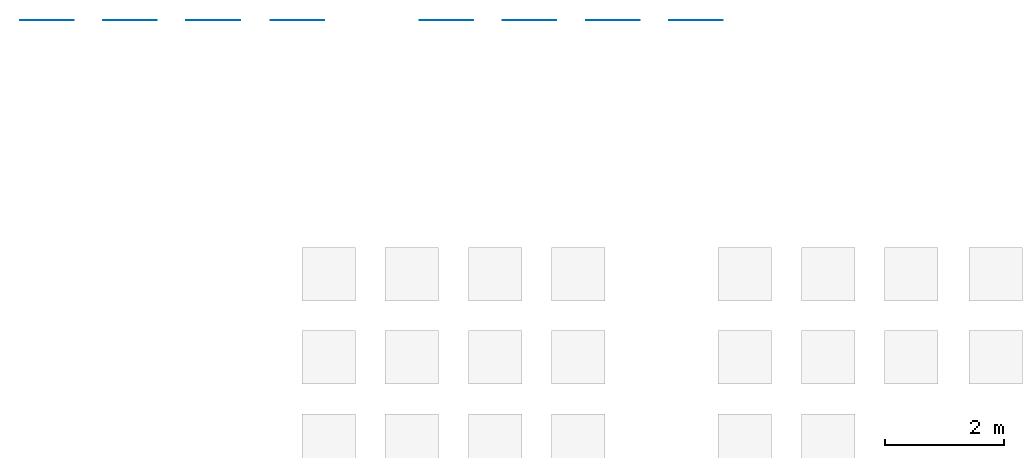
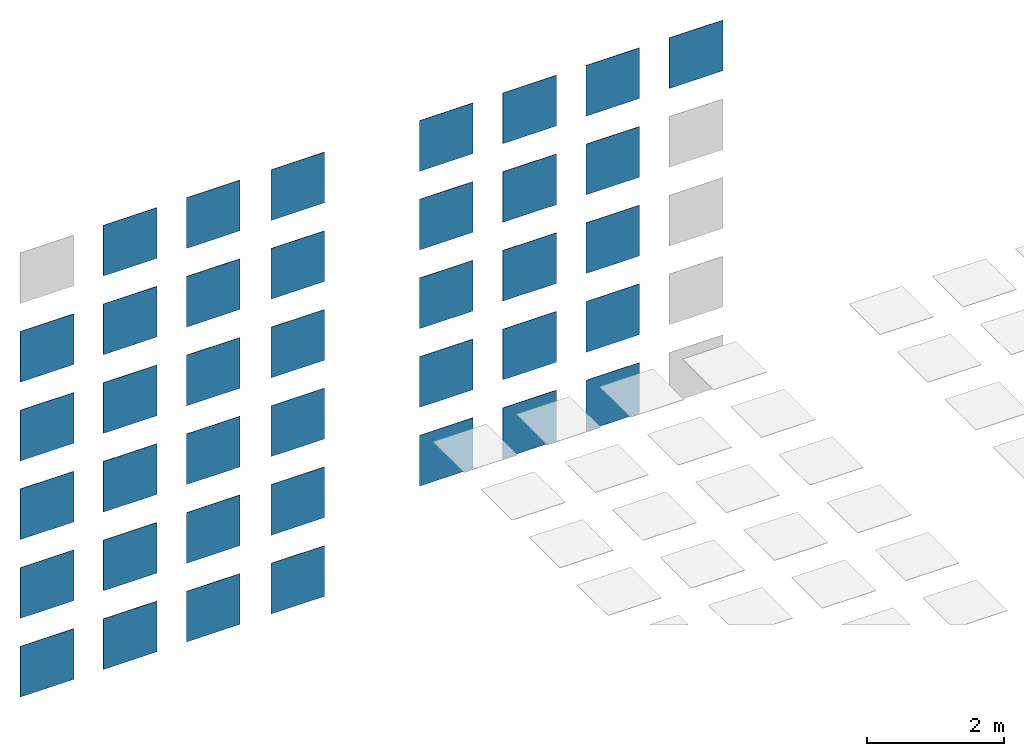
# One storey, part 2 of 3: 39 walls.
"""IFC2X3 building model written with IfcOpenShell, lengths in metres."""

from ifc_helpers import new_model, entity, si_unit, converted_unit, derived_unit, direction, frame, frame_2d, origin, place, context, subcontext, project, spatial, rectangle, extrude, material, layer, layer_set, layer_usage, type_object, element, save


model = new_model("IFC2X3")

# Units and contexts
model_context = context("Model", 3, precision=1e-05, world=origin(), true_north=direction((6.12303176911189e-17, 1.0)))
body_context = subcontext(model_context, "Body", "Model", "MODEL_VIEW")
ifc_project = project(units=[si_unit("LENGTHUNIT", "METRE"), si_unit("AREAUNIT", "SQUARE_METRE"), si_unit("VOLUMEUNIT", "CUBIC_METRE"), converted_unit("PLANEANGLEUNIT", "DEGREE", entity("IfcRatioMeasure", 0.0174532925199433), si_unit("PLANEANGLEUNIT", "RADIAN"), dimensions=[0, 0, 0, 0, 0, 0, 0]), si_unit("MASSUNIT", "GRAM", prefix="KILO"), si_unit("TIMEUNIT", "SECOND"), si_unit("FREQUENCYUNIT", "HERTZ"), si_unit("THERMODYNAMICTEMPERATUREUNIT", "DEGREE_CELSIUS"), derived_unit("THERMALTRANSMITTANCEUNIT", [(si_unit("MASSUNIT", "GRAM", prefix="KILO"), 1), (si_unit("THERMODYNAMICTEMPERATUREUNIT", "KELVIN"), -1), (si_unit("TIMEUNIT", "SECOND"), -3)]), derived_unit("VOLUMETRICFLOWRATEUNIT", [(si_unit("LENGTHUNIT", "METRE"), 3), (si_unit("TIMEUNIT", "SECOND"), -1)]), si_unit("ELECTRICCURRENTUNIT", "AMPERE"), si_unit("ELECTRICVOLTAGEUNIT", "VOLT"), si_unit("POWERUNIT", "WATT"), si_unit("FORCEUNIT", "NEWTON", prefix="KILO"), si_unit("ILLUMINANCEUNIT", "LUX"), si_unit("LUMINOUSFLUXUNIT", "LUMEN"), si_unit("LUMINOUSINTENSITYUNIT", "CANDELA"), derived_unit("USERDEFINED", [(si_unit("MASSUNIT", "GRAM", prefix="KILO"), -1), (si_unit("LENGTHUNIT", "METRE"), -2), (si_unit("TIMEUNIT", "SECOND"), 3), (si_unit("LUMINOUSFLUXUNIT", "LUMEN"), 1)]), derived_unit("LINEARVELOCITYUNIT", [(si_unit("LENGTHUNIT", "METRE"), 1), (si_unit("TIMEUNIT", "SECOND"), -1)]), si_unit("PRESSUREUNIT", "PASCAL"), derived_unit("USERDEFINED", [(si_unit("LENGTHUNIT", "METRE"), -2), (si_unit("MASSUNIT", "GRAM", prefix="KILO"), 1), (si_unit("TIMEUNIT", "SECOND"), -2)])], contexts=[model_context])

# Site, building, storey
site_placement = place(None, origin())
site = spatial("IfcSite", under=ifc_project, at=site_placement, Name="Default", CompositionType="ELEMENT")
building_placement = place(site_placement, origin())
building = spatial("IfcBuilding", under=site, at=building_placement, CompositionType="ELEMENT")
storey_placement = place(building_placement, origin())
storey = spatial("IfcBuildingStorey", under=building, at=storey_placement, Name="FARNESE FLOOR TILES", CompositionType="ELEMENT", Elevation=0.0)

# Walls
ifc_material_1 = material(Name="VIVES FARNESE CEMENTO 30x30")
ifc_layer_1 = layer(ifc_material_1, 0.0082)
ifc_layer_set_1 = layer_set([ifc_layer_1], Name="Muro básico:VIVES FARNESE CEMENTO 30x30")
ifc_layer_usage_1 = layer_usage(ifc_layer_set_1, "AXIS2", "NEGATIVE", 0.0041)
wall_type_1 = type_object("IfcWallType", Name="Muro básico:VIVES FARNESE CEMENTO 30x30", PredefinedType="STANDARD", material=ifc_layer_set_1)
wall_1_placement = place(storey_placement, frame((-6.18806570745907, 0.618072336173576, 1.80336417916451)))
element("IfcWallStandardCase", 1, at=wall_1_placement, inside=storey, type_object=wall_type_1, material=ifc_layer_usage_1, Name="Muro básico:VIVES FARNESE CEMENTO 30x30", ObjectType="Muro básico:VIVES FARNESE CEMENTO 30x30", context=body_context, shape_type="SweptSolid", body=[
    extrude(rectangle(XDim=0.899999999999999, YDim=0.00820000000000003, at=frame_2d((0.45, 5.46437894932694e-17), x_axis=(-1.0, 0.0))), origin(), (0.0, 0.0, 1.0), 0.9),
])
ifc_material_2 = material(Name="VIVES FARNESE CREMA 30x30")
ifc_layer_2 = layer(ifc_material_2, 0.0082)
ifc_layer_set_2 = layer_set([ifc_layer_2], Name="Muro básico:VIVES FARNESE CREMA 30x30")
ifc_layer_usage_2 = layer_usage(ifc_layer_set_2, "AXIS2", "NEGATIVE", 0.0041)
wall_type_2 = type_object("IfcWallType", Name="Muro básico:VIVES FARNESE CREMA 30x30", PredefinedType="STANDARD", material=ifc_layer_set_2)
wall_2_placement = place(storey_placement, frame((-4.78806570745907, 0.618072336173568, 1.80336417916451)))
element("IfcWallStandardCase", 2, at=wall_2_placement, inside=storey, type_object=wall_type_2, material=ifc_layer_usage_2, Name="Muro básico:VIVES FARNESE CREMA 30x30", ObjectType="Muro básico:VIVES FARNESE CREMA 30x30", context=body_context, shape_type="SweptSolid", body=[
    extrude(rectangle(XDim=0.9, YDim=0.00820000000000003, at=frame_2d((0.45, 5.46437894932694e-17), x_axis=(-1.0, 0.0))), origin(), (0.0, 0.0, 1.0), 0.9),
])
ifc_material_3 = material(Name="VIVES FARNESE GRAFITO 30x30")
ifc_layer_3 = layer(ifc_material_3, 0.0082)
ifc_layer_set_3 = layer_set([ifc_layer_3], Name="Muro básico:VIVES FARNESE GRAFITO 30x30")
ifc_layer_usage_3 = layer_usage(ifc_layer_set_3, "AXIS2", "NEGATIVE", 0.0041)
wall_type_3 = type_object("IfcWallType", Name="Muro básico:VIVES FARNESE GRAFITO 30x30", PredefinedType="STANDARD", material=ifc_layer_set_3)
wall_3_placement = place(storey_placement, frame((-3.36806570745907, 0.618072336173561, 1.80336417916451)))
element("IfcWallStandardCase", 3, at=wall_3_placement, inside=storey, type_object=wall_type_3, material=ifc_layer_usage_3, Name="Muro básico:VIVES FARNESE GRAFITO 30x30", ObjectType="Muro básico:VIVES FARNESE GRAFITO 30x30", context=body_context, shape_type="SweptSolid", body=[
    extrude(rectangle(XDim=0.9, YDim=0.00820000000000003, at=frame_2d((0.45, 5.46437894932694e-17), x_axis=(-1.0, 0.0))), origin(), (0.0, 0.0, 1.0), 0.9),
])
ifc_material_4 = material(Name="VIVES AMALFI HUMO 30x30")
ifc_layer_4 = layer(ifc_material_4, 0.0082)
ifc_layer_set_4 = layer_set([ifc_layer_4], Name="Muro básico:VIVES AMALFI HUMO 30x30")
ifc_layer_usage_4 = layer_usage(ifc_layer_set_4, "AXIS2", "NEGATIVE", 0.0041)
wall_type_4 = type_object("IfcWallType", Name="Muro básico:VIVES AMALFI HUMO 30x30", PredefinedType="STANDARD", material=ifc_layer_set_4)
wall_4_placement = place(storey_placement, frame((-7.58806570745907, 0.618072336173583, 0.403364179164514)))
element("IfcWallStandardCase", 4, at=wall_4_placement, inside=storey, type_object=wall_type_4, material=ifc_layer_usage_4, Name="Muro básico:VIVES AMALFI HUMO 30x30", ObjectType="Muro básico:VIVES AMALFI HUMO 30x30", context=body_context, shape_type="SweptSolid", body=[
    extrude(rectangle(XDim=0.899999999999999, YDim=0.00820000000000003, at=frame_2d((0.45, 5.46437894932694e-17), x_axis=(-1.0, 0.0))), origin(), (0.0, 0.0, 1.0), 0.9),
])
ifc_material_5 = material(Name="VIVES AMALFI CEMENTO 30x30")
ifc_layer_5 = layer(ifc_material_5, 0.0082)
ifc_layer_set_5 = layer_set([ifc_layer_5], Name="Muro básico:VIVES AMALFI CEMENTO 30x30")
ifc_layer_usage_5 = layer_usage(ifc_layer_set_5, "AXIS2", "NEGATIVE", 0.0041)
wall_type_5 = type_object("IfcWallType", Name="Muro básico:VIVES AMALFI CEMENTO 30x30", PredefinedType="STANDARD", material=ifc_layer_set_5)
wall_5_placement = place(storey_placement, frame((-6.18806570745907, 0.618072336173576, 0.403364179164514)))
element("IfcWallStandardCase", 5, at=wall_5_placement, inside=storey, type_object=wall_type_5, material=ifc_layer_usage_5, Name="Muro básico:VIVES AMALFI CEMENTO 30x30", ObjectType="Muro básico:VIVES AMALFI CEMENTO 30x30", context=body_context, shape_type="SweptSolid", body=[
    extrude(rectangle(XDim=0.899999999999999, YDim=0.00820000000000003, at=frame_2d((0.45, 5.46437894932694e-17), x_axis=(-1.0, 0.0))), origin(), (0.0, 0.0, 1.0), 0.9),
])
ifc_material_6 = material(Name="VIVES AMALFI CREMA 30x30")
ifc_layer_6 = layer(ifc_material_6, 0.0082)
ifc_layer_set_6 = layer_set([ifc_layer_6], Name="Muro básico:VIVES AMALFI CREMA 30x30")
ifc_layer_usage_6 = layer_usage(ifc_layer_set_6, "AXIS2", "NEGATIVE", 0.0041)
wall_type_6 = type_object("IfcWallType", Name="Muro básico:VIVES AMALFI CREMA 30x30", PredefinedType="STANDARD", material=ifc_layer_set_6)
wall_6_placement = place(storey_placement, frame((-4.78806570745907, 0.618072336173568, 0.403364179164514)))
element("IfcWallStandardCase", 6, at=wall_6_placement, inside=storey, type_object=wall_type_6, material=ifc_layer_usage_6, Name="Muro básico:VIVES AMALFI CREMA 30x30", ObjectType="Muro básico:VIVES AMALFI CREMA 30x30", context=body_context, shape_type="SweptSolid", body=[
    extrude(rectangle(XDim=0.9, YDim=0.00820000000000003, at=frame_2d((0.45, 5.46437894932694e-17), x_axis=(-1.0, 0.0))), origin(), (0.0, 0.0, 1.0), 0.9),
])
ifc_material_7 = material(Name="VIVES AMALFI GRAFITO 30x30")
ifc_layer_7 = layer(ifc_material_7, 0.0082)
ifc_layer_set_7 = layer_set([ifc_layer_7], Name="Muro básico:VIVES AMALFI GRAFITO 30x30")
ifc_layer_usage_7 = layer_usage(ifc_layer_set_7, "AXIS2", "NEGATIVE", 0.0041)
wall_type_7 = type_object("IfcWallType", Name="Muro básico:VIVES AMALFI GRAFITO 30x30", PredefinedType="STANDARD", material=ifc_layer_set_7)
wall_7_placement = place(storey_placement, frame((-3.36806570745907, 0.618072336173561, 0.403364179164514)))
element("IfcWallStandardCase", 7, at=wall_7_placement, inside=storey, type_object=wall_type_7, material=ifc_layer_usage_7, Name="Muro básico:VIVES AMALFI GRAFITO 30x30", ObjectType="Muro básico:VIVES AMALFI GRAFITO 30x30", context=body_context, shape_type="SweptSolid", body=[
    extrude(rectangle(XDim=0.9, YDim=0.00820000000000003, at=frame_2d((0.45, 5.46437894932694e-17), x_axis=(-1.0, 0.0))), origin(), (0.0, 0.0, 1.0), 0.9),
])
ifc_material_8 = material(Name="VIVES AMALFI AZUL 30x30")
ifc_layer_8 = layer(ifc_material_8, 0.0082)
ifc_layer_set_8 = layer_set([ifc_layer_8], Name="Muro básico:VIVES AMALFI AZUL30x30")
ifc_layer_usage_8 = layer_usage(ifc_layer_set_8, "AXIS2", "NEGATIVE", 0.0041)
wall_type_8 = type_object("IfcWallType", Name="Muro básico:VIVES AMALFI AZUL30x30", PredefinedType="STANDARD", material=ifc_layer_set_8)
wall_8_placement = place(storey_placement, frame((-7.58806570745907, 0.618072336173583, -0.996635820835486)))
element("IfcWallStandardCase", 8, at=wall_8_placement, inside=storey, type_object=wall_type_8, material=ifc_layer_usage_8, Name="Muro básico:VIVES AMALFI AZUL30x30", ObjectType="Muro básico:VIVES AMALFI AZUL30x30", context=body_context, shape_type="SweptSolid", body=[
    extrude(rectangle(XDim=0.899999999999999, YDim=0.00820000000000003, at=frame_2d((0.45, 5.46437894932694e-17), x_axis=(-1.0, 0.0))), origin(), (0.0, 0.0, 1.0), 0.9),
])
ifc_material_9 = material(Name="VIVES AMALFI MAR 30x30")
ifc_layer_9 = layer(ifc_material_9, 0.0082)
ifc_layer_set_9 = layer_set([ifc_layer_9], Name="Muro básico:VIVES AMALFI MAR 30x30")
ifc_layer_usage_9 = layer_usage(ifc_layer_set_9, "AXIS2", "NEGATIVE", 0.0041)
wall_type_9 = type_object("IfcWallType", Name="Muro básico:VIVES AMALFI MAR 30x30", PredefinedType="STANDARD", material=ifc_layer_set_9)
wall_9_placement = place(storey_placement, frame((-6.18806570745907, 0.618072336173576, -0.996635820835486)))
element("IfcWallStandardCase", 9, at=wall_9_placement, inside=storey, type_object=wall_type_9, material=ifc_layer_usage_9, Name="Muro básico:VIVES AMALFI MAR 30x30", ObjectType="Muro básico:VIVES AMALFI MAR 30x30", context=body_context, shape_type="SweptSolid", body=[
    extrude(rectangle(XDim=0.899999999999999, YDim=0.00820000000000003, at=frame_2d((0.45, 5.46437894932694e-17), x_axis=(-1.0, 0.0))), origin(), (0.0, 0.0, 1.0), 0.9),
])
ifc_material_10 = material(Name="VIVES AMALFI BEIGE 30x30")
ifc_layer_10 = layer(ifc_material_10, 0.0082)
ifc_layer_set_10 = layer_set([ifc_layer_10], Name="Muro básico:VIVES AMALFI BEIGE 30x30")
ifc_layer_usage_10 = layer_usage(ifc_layer_set_10, "AXIS2", "NEGATIVE", 0.0041)
wall_type_10 = type_object("IfcWallType", Name="Muro básico:VIVES AMALFI BEIGE 30x30", PredefinedType="STANDARD", material=ifc_layer_set_10)
wall_10_placement = place(storey_placement, frame((-4.78806570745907, 0.618072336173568, -0.996635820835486)))
element("IfcWallStandardCase", 10, at=wall_10_placement, inside=storey, type_object=wall_type_10, material=ifc_layer_usage_10, Name="Muro básico:VIVES AMALFI BEIGE 30x30", ObjectType="Muro básico:VIVES AMALFI BEIGE 30x30", context=body_context, shape_type="SweptSolid", body=[
    extrude(rectangle(XDim=0.9, YDim=0.00820000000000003, at=frame_2d((0.45, 5.46437894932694e-17), x_axis=(-1.0, 0.0))), origin(), (0.0, 0.0, 1.0), 0.9),
])
ifc_material_11 = material(Name="VIVES AMALFI ROSA 30x30")
ifc_layer_11 = layer(ifc_material_11, 0.0082)
ifc_layer_set_11 = layer_set([ifc_layer_11], Name="Muro básico:VIVES AMALFI ROSA 30x30")
ifc_layer_usage_11 = layer_usage(ifc_layer_set_11, "AXIS2", "NEGATIVE", 0.0041)
wall_type_11 = type_object("IfcWallType", Name="Muro básico:VIVES AMALFI ROSA 30x30", PredefinedType="STANDARD", material=ifc_layer_set_11)
wall_11_placement = place(storey_placement, frame((-3.36806570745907, 0.618072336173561, -0.996635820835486)))
element("IfcWallStandardCase", 11, at=wall_11_placement, inside=storey, type_object=wall_type_11, material=ifc_layer_usage_11, Name="Muro básico:VIVES AMALFI ROSA 30x30", ObjectType="Muro básico:VIVES AMALFI ROSA 30x30", context=body_context, shape_type="SweptSolid", body=[
    extrude(rectangle(XDim=0.9, YDim=0.00820000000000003, at=frame_2d((0.45, 5.46437894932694e-17), x_axis=(-1.0, 0.0))), origin(), (0.0, 0.0, 1.0), 0.9),
])
ifc_material_12 = material(Name="VIVES MANCINI HUMO 30x30")
ifc_layer_12 = layer(ifc_material_12, 0.0082)
ifc_layer_set_12 = layer_set([ifc_layer_12], Name="Muro básico:VIVES MANCINI HUMO 30x30")
ifc_layer_usage_12 = layer_usage(ifc_layer_set_12, "AXIS2", "NEGATIVE", 0.0041)
wall_type_12 = type_object("IfcWallType", Name="Muro básico:VIVES MANCINI HUMO 30x30", PredefinedType="STANDARD", material=ifc_layer_set_12)
wall_12_placement = place(storey_placement, frame((-7.58806570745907, 0.618072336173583, -2.39663582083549)))
element("IfcWallStandardCase", 12, at=wall_12_placement, inside=storey, type_object=wall_type_12, material=ifc_layer_usage_12, Name="Muro básico:VIVES MANCINI HUMO 30x30", ObjectType="Muro básico:VIVES MANCINI HUMO 30x30", context=body_context, shape_type="SweptSolid", body=[
    extrude(rectangle(XDim=0.899999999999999, YDim=0.00820000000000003, at=frame_2d((0.45, 5.46437894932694e-17), x_axis=(-1.0, 0.0))), origin(), (0.0, 0.0, 1.0), 0.9),
])
ifc_material_13 = material(Name="VIVES MANCINI CEMENTO 30x30")
ifc_layer_13 = layer(ifc_material_13, 0.0082)
ifc_layer_set_13 = layer_set([ifc_layer_13], Name="Muro básico:MANCINI CEMENTO 30x30")
ifc_layer_usage_13 = layer_usage(ifc_layer_set_13, "AXIS2", "NEGATIVE", 0.0041)
wall_type_13 = type_object("IfcWallType", Name="Muro básico:MANCINI CEMENTO 30x30", PredefinedType="STANDARD", material=ifc_layer_set_13)
wall_13_placement = place(storey_placement, frame((-6.18806570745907, 0.618072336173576, -2.39663582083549)))
element("IfcWallStandardCase", 13, at=wall_13_placement, inside=storey, type_object=wall_type_13, material=ifc_layer_usage_13, Name="Muro básico:MANCINI CEMENTO 30x30", ObjectType="Muro básico:MANCINI CEMENTO 30x30", context=body_context, shape_type="SweptSolid", body=[
    extrude(rectangle(XDim=0.899999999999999, YDim=0.00820000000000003, at=frame_2d((0.45, 5.46437894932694e-17), x_axis=(-1.0, 0.0))), origin(), (0.0, 0.0, 1.0), 0.9),
])
ifc_material_14 = material(Name="VIVES MANCINI CREMA 30x30")
ifc_layer_14 = layer(ifc_material_14, 0.0082)
ifc_layer_set_14 = layer_set([ifc_layer_14], Name="Muro básico:VIVES MANCINI CREMA 30x30")
ifc_layer_usage_14 = layer_usage(ifc_layer_set_14, "AXIS2", "NEGATIVE", 0.0041)
wall_type_14 = type_object("IfcWallType", Name="Muro básico:VIVES MANCINI CREMA 30x30", PredefinedType="STANDARD", material=ifc_layer_set_14)
wall_14_placement = place(storey_placement, frame((-4.78806570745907, 0.618072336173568, -2.39663582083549)))
element("IfcWallStandardCase", 14, at=wall_14_placement, inside=storey, type_object=wall_type_14, material=ifc_layer_usage_14, Name="Muro básico:VIVES MANCINI CREMA 30x30", ObjectType="Muro básico:VIVES MANCINI CREMA 30x30", context=body_context, shape_type="SweptSolid", body=[
    extrude(rectangle(XDim=0.9, YDim=0.00820000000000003, at=frame_2d((0.45, 5.46437894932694e-17), x_axis=(-1.0, 0.0))), origin(), (0.0, 0.0, 1.0), 0.9),
])
ifc_material_15 = material(Name="VIVES MANCINI GRAFITO 30x30")
ifc_layer_15 = layer(ifc_material_15, 0.0082)
ifc_layer_set_15 = layer_set([ifc_layer_15], Name="Muro básico:VIVES MANCINI GRAFITO 30x30")
ifc_layer_usage_15 = layer_usage(ifc_layer_set_15, "AXIS2", "NEGATIVE", 0.0041)
wall_type_15 = type_object("IfcWallType", Name="Muro básico:VIVES MANCINI GRAFITO 30x30", PredefinedType="STANDARD", material=ifc_layer_set_15)
wall_15_placement = place(storey_placement, frame((-3.36806570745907, 0.618072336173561, -2.39663582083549)))
element("IfcWallStandardCase", 15, at=wall_15_placement, inside=storey, type_object=wall_type_15, material=ifc_layer_usage_15, Name="Muro básico:VIVES MANCINI GRAFITO 30x30", ObjectType="Muro básico:VIVES MANCINI GRAFITO 30x30", context=body_context, shape_type="SweptSolid", body=[
    extrude(rectangle(XDim=0.9, YDim=0.00820000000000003, at=frame_2d((0.45, 5.46437894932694e-17), x_axis=(-1.0, 0.0))), origin(), (0.0, 0.0, 1.0), 0.9),
])
ifc_material_16 = material(Name="VIVES MANCINI AZUL 30x30")
ifc_layer_16 = layer(ifc_material_16, 0.0082)
ifc_layer_set_16 = layer_set([ifc_layer_16], Name="Muro básico:VIVES MANCINI AZUL 30x30")
ifc_layer_usage_16 = layer_usage(ifc_layer_set_16, "AXIS2", "NEGATIVE", 0.0041)
wall_type_16 = type_object("IfcWallType", Name="Muro básico:VIVES MANCINI AZUL 30x30", PredefinedType="STANDARD", material=ifc_layer_set_16)
wall_16_placement = place(storey_placement, frame((-7.58806570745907, 0.618072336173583, -3.79663582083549)))
element("IfcWallStandardCase", 16, at=wall_16_placement, inside=storey, type_object=wall_type_16, material=ifc_layer_usage_16, Name="Muro básico:VIVES MANCINI AZUL 30x30", ObjectType="Muro básico:VIVES MANCINI AZUL 30x30", context=body_context, shape_type="SweptSolid", body=[
    extrude(rectangle(XDim=0.899999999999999, YDim=0.00820000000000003, at=frame_2d((0.45, 5.46437894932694e-17), x_axis=(-1.0, 0.0))), origin(), (0.0, 0.0, 1.0), 0.9),
])
ifc_material_17 = material(Name="VIVES MANCINI MAR 30x30")
ifc_layer_17 = layer(ifc_material_17, 0.0082)
ifc_layer_set_17 = layer_set([ifc_layer_17], Name="Muro básico:MANCINI MAR 30x30")
ifc_layer_usage_17 = layer_usage(ifc_layer_set_17, "AXIS2", "NEGATIVE", 0.0041)
wall_type_17 = type_object("IfcWallType", Name="Muro básico:MANCINI MAR 30x30", PredefinedType="STANDARD", material=ifc_layer_set_17)
wall_17_placement = place(storey_placement, frame((-6.18806570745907, 0.618072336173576, -3.79663582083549)))
element("IfcWallStandardCase", 17, at=wall_17_placement, inside=storey, type_object=wall_type_17, material=ifc_layer_usage_17, Name="Muro básico:MANCINI MAR 30x30", ObjectType="Muro básico:MANCINI MAR 30x30", context=body_context, shape_type="SweptSolid", body=[
    extrude(rectangle(XDim=0.899999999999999, YDim=0.00820000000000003, at=frame_2d((0.45, 5.46437894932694e-17), x_axis=(-1.0, 0.0))), origin(), (0.0, 0.0, 1.0), 0.9),
])
ifc_material_18 = material(Name="VIVES MANCINI BEIGE 30x30")
ifc_layer_18 = layer(ifc_material_18, 0.0082)
ifc_layer_set_18 = layer_set([ifc_layer_18], Name="Muro básico:VIVES MANCINI BEIGE 30x30")
ifc_layer_usage_18 = layer_usage(ifc_layer_set_18, "AXIS2", "NEGATIVE", 0.0041)
wall_type_18 = type_object("IfcWallType", Name="Muro básico:VIVES MANCINI BEIGE 30x30", PredefinedType="STANDARD", material=ifc_layer_set_18)
wall_18_placement = place(storey_placement, frame((-4.78806570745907, 0.618072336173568, -3.79663582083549)))
element("IfcWallStandardCase", 18, at=wall_18_placement, inside=storey, type_object=wall_type_18, material=ifc_layer_usage_18, Name="Muro básico:VIVES MANCINI BEIGE 30x30", ObjectType="Muro básico:VIVES MANCINI BEIGE 30x30", context=body_context, shape_type="SweptSolid", body=[
    extrude(rectangle(XDim=0.9, YDim=0.00820000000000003, at=frame_2d((0.45, 5.46437894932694e-17), x_axis=(-1.0, 0.0))), origin(), (0.0, 0.0, 1.0), 0.9),
])
ifc_material_19 = material(Name="VIVES MANCINI ROSA 30x30")
ifc_layer_19 = layer(ifc_material_19, 0.0082)
ifc_layer_set_19 = layer_set([ifc_layer_19], Name="Muro básico:VIVES MANCINI ROSA 30x30")
ifc_layer_usage_19 = layer_usage(ifc_layer_set_19, "AXIS2", "NEGATIVE", 0.0041)
wall_type_19 = type_object("IfcWallType", Name="Muro básico:VIVES MANCINI ROSA 30x30", PredefinedType="STANDARD", material=ifc_layer_set_19)
wall_19_placement = place(storey_placement, frame((-3.36806570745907, 0.618072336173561, -3.79663582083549)))
element("IfcWallStandardCase", 19, at=wall_19_placement, inside=storey, type_object=wall_type_19, material=ifc_layer_usage_19, Name="Muro básico:VIVES MANCINI ROSA 30x30", ObjectType="Muro básico:VIVES MANCINI ROSA 30x30", context=body_context, shape_type="SweptSolid", body=[
    extrude(rectangle(XDim=0.9, YDim=0.00820000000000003, at=frame_2d((0.45, 5.46437894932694e-17), x_axis=(-1.0, 0.0))), origin(), (0.0, 0.0, 1.0), 0.9),
])
ifc_material_20 = material(Name="VIVES CAVOUR CEMENTO 30x30")
ifc_layer_20 = layer(ifc_material_20, 0.0082)
ifc_layer_set_20 = layer_set([ifc_layer_20], Name="Muro básico:VIVES CAVOUR CEMENTO 30x30")
ifc_layer_usage_20 = layer_usage(ifc_layer_set_20, "AXIS2", "NEGATIVE", 0.0041)
wall_type_20 = type_object("IfcWallType", Name="Muro básico:VIVES CAVOUR CEMENTO 30x30", PredefinedType="STANDARD", material=ifc_layer_set_20)
wall_20_placement = place(storey_placement, frame((-7.58806570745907, 0.618072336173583, -5.19663582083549)))
element("IfcWallStandardCase", 20, at=wall_20_placement, inside=storey, type_object=wall_type_20, material=ifc_layer_usage_20, Name="Muro básico:VIVES CAVOUR CEMENTO 30x30", ObjectType="Muro básico:VIVES CAVOUR CEMENTO 30x30", context=body_context, shape_type="SweptSolid", body=[
    extrude(rectangle(XDim=0.899999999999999, YDim=0.00820000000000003, at=frame_2d((0.45, 5.46437894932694e-17), x_axis=(-1.0, 0.0))), origin(), (0.0, 0.0, 1.0), 0.899999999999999),
])
ifc_material_21 = material(Name="VIVES CAVOUR AZUL 30x30")
ifc_layer_21 = layer(ifc_material_21, 0.0082)
ifc_layer_set_21 = layer_set([ifc_layer_21], Name="Muro básico:CAVOUR AZUL 30x30")
ifc_layer_usage_21 = layer_usage(ifc_layer_set_21, "AXIS2", "NEGATIVE", 0.0041)
wall_type_21 = type_object("IfcWallType", Name="Muro básico:CAVOUR AZUL 30x30", PredefinedType="STANDARD", material=ifc_layer_set_21)
wall_21_placement = place(storey_placement, frame((-6.18806570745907, 0.618072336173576, -5.19663582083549)))
element("IfcWallStandardCase", 21, at=wall_21_placement, inside=storey, type_object=wall_type_21, material=ifc_layer_usage_21, Name="Muro básico:CAVOUR AZUL 30x30", ObjectType="Muro básico:CAVOUR AZUL 30x30", context=body_context, shape_type="SweptSolid", body=[
    extrude(rectangle(XDim=0.899999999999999, YDim=0.00820000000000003, at=frame_2d((0.45, 5.46437894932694e-17), x_axis=(-1.0, 0.0))), origin(), (0.0, 0.0, 1.0), 0.899999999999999),
])
ifc_material_22 = material(Name="VIVES GADNER CREMA 30x30")
ifc_layer_22 = layer(ifc_material_22, 0.0082)
ifc_layer_set_22 = layer_set([ifc_layer_22], Name="Muro básico:VIVES GADNER CREMA 30x30")
ifc_layer_usage_22 = layer_usage(ifc_layer_set_22, "AXIS2", "NEGATIVE", 0.0041)
wall_type_22 = type_object("IfcWallType", Name="Muro básico:VIVES GADNER CREMA 30x30", PredefinedType="STANDARD", material=ifc_layer_set_22)
wall_22_placement = place(storey_placement, frame((-4.78806570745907, 0.618072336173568, -5.19663582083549)))
element("IfcWallStandardCase", 22, at=wall_22_placement, inside=storey, type_object=wall_type_22, material=ifc_layer_usage_22, Name="Muro básico:VIVES GADNER CREMA 30x30", ObjectType="Muro básico:VIVES GADNER CREMA 30x30", context=body_context, shape_type="SweptSolid", body=[
    extrude(rectangle(XDim=0.9, YDim=0.00820000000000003, at=frame_2d((0.45, 5.46437894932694e-17), x_axis=(-1.0, 0.0))), origin(), (0.0, 0.0, 1.0), 0.899999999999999),
])
ifc_material_23 = material(Name="VIVES GADNER CEMENTO 30x30")
ifc_layer_23 = layer(ifc_material_23, 0.0082)
ifc_layer_set_23 = layer_set([ifc_layer_23], Name="Muro básico:VIVES GADNER CEMENTO 30x30")
ifc_layer_usage_23 = layer_usage(ifc_layer_set_23, "AXIS2", "NEGATIVE", 0.0041)
wall_type_23 = type_object("IfcWallType", Name="Muro básico:VIVES GADNER CEMENTO 30x30", PredefinedType="STANDARD", material=ifc_layer_set_23)
wall_23_placement = place(storey_placement, frame((-3.36806570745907, 0.618072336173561, -5.19663582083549)))
element("IfcWallStandardCase", 23, at=wall_23_placement, inside=storey, type_object=wall_type_23, material=ifc_layer_usage_23, Name="Muro básico:VIVES GADNER CEMENTO 30x30", ObjectType="Muro básico:VIVES GADNER CEMENTO 30x30", context=body_context, shape_type="SweptSolid", body=[
    extrude(rectangle(XDim=0.9, YDim=0.00820000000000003, at=frame_2d((0.45, 5.46437894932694e-17), x_axis=(-1.0, 0.0))), origin(), (0.0, 0.0, 1.0), 0.899999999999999),
])
ifc_material_24 = material(Name="VIVES FARNESE-R HUMO 29.3x29.3")
ifc_layer_24 = layer(ifc_material_24, 0.0082)
ifc_layer_set_24 = layer_set([ifc_layer_24], Name="Muro básico:VIVES FARNESE-R HUMO 29.3X29.3")
ifc_layer_usage_24 = layer_usage(ifc_layer_set_24, "AXIS2", "NEGATIVE", 0.0041)
wall_type_24 = type_object("IfcWallType", Name="Muro básico:VIVES FARNESE-R HUMO 29.3X29.3", PredefinedType="STANDARD", material=ifc_layer_set_24)
wall_24_placement = place(storey_placement, frame((-0.868065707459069, 0.618072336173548, 1.80336417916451)))
element("IfcWallStandardCase", 24, at=wall_24_placement, inside=storey, type_object=wall_type_24, material=ifc_layer_usage_24, Name="Muro básico:VIVES FARNESE-R HUMO 29.3X29.3", ObjectType="Muro básico:VIVES FARNESE-R HUMO 29.3X29.3", context=body_context, shape_type="SweptSolid", body=[
    extrude(rectangle(XDim=0.9, YDim=0.00820000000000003, at=frame_2d((0.45, 5.46437894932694e-17), x_axis=(-1.0, 0.0))), origin(), (0.0, 0.0, 1.0), 0.9),
])
ifc_material_25 = material(Name="VIVES FARNESE-R CEMENTO 29.3x29.3")
ifc_layer_25 = layer(ifc_material_25, 0.0082)
ifc_layer_set_25 = layer_set([ifc_layer_25], Name="Muro básico:VIVES FARNESE-R CEMENTO 29.3X29.3 2")
ifc_layer_usage_25 = layer_usage(ifc_layer_set_25, "AXIS2", "NEGATIVE", 0.0041)
wall_type_25 = type_object("IfcWallType", Name="Muro básico:VIVES FARNESE-R CEMENTO 29.3X29.3 2", PredefinedType="STANDARD", material=ifc_layer_set_25)
wall_25_placement = place(storey_placement, frame((0.531934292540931, 0.61807233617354, 1.80336417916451)))
element("IfcWallStandardCase", 25, at=wall_25_placement, inside=storey, type_object=wall_type_25, material=ifc_layer_usage_25, Name="Muro básico:VIVES FARNESE-R CEMENTO 29.3X29.3 2", ObjectType="Muro básico:VIVES FARNESE-R CEMENTO 29.3X29.3 2", context=body_context, shape_type="SweptSolid", body=[
    extrude(rectangle(XDim=0.9, YDim=0.00820000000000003, at=frame_2d((0.45, 5.46437894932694e-17), x_axis=(-1.0, 0.0))), origin(), (0.0, 0.0, 1.0), 0.9),
])
ifc_material_26 = material(Name="VIVES FARNESE-R CREMA 29.3x29.3")
ifc_layer_26 = layer(ifc_material_26, 0.0082)
ifc_layer_set_26 = layer_set([ifc_layer_26], Name="Muro básico:VIVES FARNESE-R CREMA 29.3X29.3")
ifc_layer_usage_26 = layer_usage(ifc_layer_set_26, "AXIS2", "NEGATIVE", 0.0041)
wall_type_26 = type_object("IfcWallType", Name="Muro básico:VIVES FARNESE-R CREMA 29.3X29.3", PredefinedType="STANDARD", material=ifc_layer_set_26)
wall_26_placement = place(storey_placement, frame((1.93193429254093, 0.618072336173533, 1.80336417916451)))
element("IfcWallStandardCase", 26, at=wall_26_placement, inside=storey, type_object=wall_type_26, material=ifc_layer_usage_26, Name="Muro básico:VIVES FARNESE-R CREMA 29.3X29.3", ObjectType="Muro básico:VIVES FARNESE-R CREMA 29.3X29.3", context=body_context, shape_type="SweptSolid", body=[
    extrude(rectangle(XDim=0.9, YDim=0.00820000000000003, at=frame_2d((0.45, 5.46437894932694e-17), x_axis=(-1.0, 0.0))), origin(), (0.0, 0.0, 1.0), 0.9),
])
ifc_material_27 = material(Name="VIVES FARNESE-R GRAFITO 29.3x29.3")
ifc_layer_27 = layer(ifc_material_27, 0.0082)
ifc_layer_set_27 = layer_set([ifc_layer_27], Name="Muro básico:VIVES FARNESE-R GRAFITO 29.3X29.3")
ifc_layer_usage_27 = layer_usage(ifc_layer_set_27, "AXIS2", "NEGATIVE", 0.0041)
wall_type_27 = type_object("IfcWallType", Name="Muro básico:VIVES FARNESE-R GRAFITO 29.3X29.3", PredefinedType="STANDARD", material=ifc_layer_set_27)
wall_27_placement = place(storey_placement, frame((3.33193429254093, 0.618072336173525, 1.80336417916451)))
element("IfcWallStandardCase", 27, at=wall_27_placement, inside=storey, type_object=wall_type_27, material=ifc_layer_usage_27, Name="Muro básico:VIVES FARNESE-R GRAFITO 29.3X29.3", ObjectType="Muro básico:VIVES FARNESE-R GRAFITO 29.3X29.3", context=body_context, shape_type="SweptSolid", body=[
    extrude(rectangle(XDim=0.9, YDim=0.00820000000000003, at=frame_2d((0.45, 5.46437894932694e-17), x_axis=(-1.0, 0.0))), origin(), (0.0, 0.0, 1.0), 0.9),
])
ifc_material_28 = material(Name="VIVES AMALFI-R HUMO 29.3x29.3")
ifc_layer_28 = layer(ifc_material_28, 0.0082)
ifc_layer_set_28 = layer_set([ifc_layer_28], Name="Muro básico:VIVES AMALFI-R HUMO 29.3X29.3")
ifc_layer_usage_28 = layer_usage(ifc_layer_set_28, "AXIS2", "NEGATIVE", 0.0041)
wall_type_28 = type_object("IfcWallType", Name="Muro básico:VIVES AMALFI-R HUMO 29.3X29.3", PredefinedType="STANDARD", material=ifc_layer_set_28)
wall_28_placement = place(storey_placement, frame((-0.868065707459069, 0.618072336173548, 0.403364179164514)))
element("IfcWallStandardCase", 28, at=wall_28_placement, inside=storey, type_object=wall_type_28, material=ifc_layer_usage_28, Name="Muro básico:VIVES AMALFI-R HUMO 29.3X29.3", ObjectType="Muro básico:VIVES AMALFI-R HUMO 29.3X29.3", context=body_context, shape_type="SweptSolid", body=[
    extrude(rectangle(XDim=0.9, YDim=0.00820000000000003, at=frame_2d((0.45, 5.46437894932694e-17), x_axis=(-1.0, 0.0))), origin(), (0.0, 0.0, 1.0), 0.9),
])
ifc_layer_29 = layer(ifc_material_25, 0.0082)
ifc_layer_set_29 = layer_set([ifc_layer_29], Name="Muro básico:VIVES AMALFI-R CEMENTO 29.3X29.3")
ifc_layer_usage_29 = layer_usage(ifc_layer_set_29, "AXIS2", "NEGATIVE", 0.0041)
wall_type_29 = type_object("IfcWallType", Name="Muro básico:VIVES AMALFI-R CEMENTO 29.3X29.3", PredefinedType="STANDARD", material=ifc_layer_set_29)
wall_29_placement = place(storey_placement, frame((0.531934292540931, 0.61807233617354, 0.403364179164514)))
element("IfcWallStandardCase", 29, at=wall_29_placement, inside=storey, type_object=wall_type_29, material=ifc_layer_usage_29, Name="Muro básico:VIVES AMALFI-R CEMENTO 29.3X29.3", ObjectType="Muro básico:VIVES AMALFI-R CEMENTO 29.3X29.3", context=body_context, shape_type="SweptSolid", body=[
    extrude(rectangle(XDim=0.9, YDim=0.00820000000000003, at=frame_2d((0.45, 5.46437894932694e-17), x_axis=(-1.0, 0.0))), origin(), (0.0, 0.0, 1.0), 0.9),
])
ifc_material_29 = material(Name="VIVES AMALFI-R CREMA 29.3x29.3")
ifc_layer_30 = layer(ifc_material_29, 0.0082)
ifc_layer_set_30 = layer_set([ifc_layer_30], Name="Muro básico:VIVES AMALFI-R CREMA 29.3X29.3")
ifc_layer_usage_30 = layer_usage(ifc_layer_set_30, "AXIS2", "NEGATIVE", 0.0041)
wall_type_30 = type_object("IfcWallType", Name="Muro básico:VIVES AMALFI-R CREMA 29.3X29.3", PredefinedType="STANDARD", material=ifc_layer_set_30)
wall_30_placement = place(storey_placement, frame((1.93193429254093, 0.618072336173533, 0.403364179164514)))
element("IfcWallStandardCase", 30, at=wall_30_placement, inside=storey, type_object=wall_type_30, material=ifc_layer_usage_30, Name="Muro básico:VIVES AMALFI-R CREMA 29.3X29.3", ObjectType="Muro básico:VIVES AMALFI-R CREMA 29.3X29.3", context=body_context, shape_type="SweptSolid", body=[
    extrude(rectangle(XDim=0.9, YDim=0.00820000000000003, at=frame_2d((0.45, 5.46437894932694e-17), x_axis=(-1.0, 0.0))), origin(), (0.0, 0.0, 1.0), 0.9),
])
ifc_material_30 = material(Name="VIVES AMALFI-R AZUL 29.3x29.3")
ifc_layer_31 = layer(ifc_material_30, 0.0082)
ifc_layer_set_31 = layer_set([ifc_layer_31], Name="Muro básico:VIVES AMALFI-R AZUL 29.3X29.3")
ifc_layer_usage_31 = layer_usage(ifc_layer_set_31, "AXIS2", "NEGATIVE", 0.0041)
wall_type_31 = type_object("IfcWallType", Name="Muro básico:VIVES AMALFI-R AZUL 29.3X29.3", PredefinedType="STANDARD", material=ifc_layer_set_31)
wall_31_placement = place(storey_placement, frame((-0.868065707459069, 0.618072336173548, -0.996635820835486)))
element("IfcWallStandardCase", 31, at=wall_31_placement, inside=storey, type_object=wall_type_31, material=ifc_layer_usage_31, Name="Muro básico:VIVES AMALFI-R AZUL 29.3X29.3", ObjectType="Muro básico:VIVES AMALFI-R AZUL 29.3X29.3", context=body_context, shape_type="SweptSolid", body=[
    extrude(rectangle(XDim=0.9, YDim=0.00820000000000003, at=frame_2d((0.45, 5.46437894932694e-17), x_axis=(-1.0, 0.0))), origin(), (0.0, 0.0, 1.0), 0.9),
])
ifc_material_31 = material(Name="VIVES AMALFI-R MAR 29.3x29.3")
ifc_layer_32 = layer(ifc_material_31, 0.0082)
ifc_layer_set_32 = layer_set([ifc_layer_32], Name="Muro básico:VIVES AMALFI-R MAR 29.3X29.3")
ifc_layer_usage_32 = layer_usage(ifc_layer_set_32, "AXIS2", "NEGATIVE", 0.0041)
wall_type_32 = type_object("IfcWallType", Name="Muro básico:VIVES AMALFI-R MAR 29.3X29.3", PredefinedType="STANDARD", material=ifc_layer_set_32)
wall_32_placement = place(storey_placement, frame((0.531934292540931, 0.61807233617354, -0.996635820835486)))
element("IfcWallStandardCase", 32, at=wall_32_placement, inside=storey, type_object=wall_type_32, material=ifc_layer_usage_32, Name="Muro básico:VIVES AMALFI-R MAR 29.3X29.3", ObjectType="Muro básico:VIVES AMALFI-R MAR 29.3X29.3", context=body_context, shape_type="SweptSolid", body=[
    extrude(rectangle(XDim=0.9, YDim=0.00820000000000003, at=frame_2d((0.45, 5.46437894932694e-17), x_axis=(-1.0, 0.0))), origin(), (0.0, 0.0, 1.0), 0.9),
])
ifc_material_32 = material(Name="VIVES AMALFI-R BEIGE 29.3x29.3")
ifc_layer_33 = layer(ifc_material_32, 0.0082)
ifc_layer_set_33 = layer_set([ifc_layer_33], Name="Muro básico:VIVES AMALFI-R BEIGE 29.3X29.3 2")
ifc_layer_usage_33 = layer_usage(ifc_layer_set_33, "AXIS2", "NEGATIVE", 0.0041)
wall_type_33 = type_object("IfcWallType", Name="Muro básico:VIVES AMALFI-R BEIGE 29.3X29.3 2", PredefinedType="STANDARD", material=ifc_layer_set_33)
wall_33_placement = place(storey_placement, frame((1.93193429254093, 0.618072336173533, -0.996635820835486)))
element("IfcWallStandardCase", 33, at=wall_33_placement, inside=storey, type_object=wall_type_33, material=ifc_layer_usage_33, Name="Muro básico:VIVES AMALFI-R BEIGE 29.3X29.3 2", ObjectType="Muro básico:VIVES AMALFI-R BEIGE 29.3X29.3 2", context=body_context, shape_type="SweptSolid", body=[
    extrude(rectangle(XDim=0.9, YDim=0.00820000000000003, at=frame_2d((0.45, 5.46437894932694e-17), x_axis=(-1.0, 0.0))), origin(), (0.0, 0.0, 1.0), 0.9),
])
ifc_material_33 = material(Name="VIVES QUIRINALE-R MULTICOLOR 29.3x29.3")
ifc_layer_34 = layer(ifc_material_33, 0.0082)
ifc_layer_set_34 = layer_set([ifc_layer_34], Name="Muro básico:VIVES QUIRINALE-R MULTICOLOR 29.3X29.3")
ifc_layer_usage_34 = layer_usage(ifc_layer_set_34, "AXIS2", "NEGATIVE", 0.0041)
wall_type_34 = type_object("IfcWallType", Name="Muro básico:VIVES QUIRINALE-R MULTICOLOR 29.3X29.3", PredefinedType="STANDARD", material=ifc_layer_set_34)
wall_34_placement = place(storey_placement, frame((-0.868065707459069, 0.618072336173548, -2.39663582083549)))
element("IfcWallStandardCase", 34, at=wall_34_placement, inside=storey, type_object=wall_type_34, material=ifc_layer_usage_34, Name="Muro básico:VIVES QUIRINALE-R MULTICOLOR 29.3X29.3", ObjectType="Muro básico:VIVES QUIRINALE-R MULTICOLOR 29.3X29.3", context=body_context, shape_type="SweptSolid", body=[
    extrude(rectangle(XDim=0.9, YDim=0.00820000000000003, at=frame_2d((0.45, 5.46437894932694e-17), x_axis=(-1.0, 0.0))), origin(), (0.0, 0.0, 1.0), 0.9),
])
ifc_material_34 = material(Name="VIVES APULIA-R MULTICOLOR 29.3x29.3")
ifc_layer_35 = layer(ifc_material_34, 0.0082)
ifc_layer_set_35 = layer_set([ifc_layer_35], Name="Muro básico:VIVES APULIA-R MULTICOLOR 29.3X29.3")
ifc_layer_usage_35 = layer_usage(ifc_layer_set_35, "AXIS2", "NEGATIVE", 0.0041)
wall_type_35 = type_object("IfcWallType", Name="Muro básico:VIVES APULIA-R MULTICOLOR 29.3X29.3", PredefinedType="STANDARD", material=ifc_layer_set_35)
wall_35_placement = place(storey_placement, frame((0.531934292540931, 0.61807233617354, -2.39663582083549)))
element("IfcWallStandardCase", 35, at=wall_35_placement, inside=storey, type_object=wall_type_35, material=ifc_layer_usage_35, Name="Muro básico:VIVES APULIA-R MULTICOLOR 29.3X29.3", ObjectType="Muro básico:VIVES APULIA-R MULTICOLOR 29.3X29.3", context=body_context, shape_type="SweptSolid", body=[
    extrude(rectangle(XDim=0.9, YDim=0.00820000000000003, at=frame_2d((0.45, 5.46437894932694e-17), x_axis=(-1.0, 0.0))), origin(), (0.0, 0.0, 1.0), 0.9),
])
ifc_material_35 = material(Name="VIVES APULIA-R CREMA 29.3x29.3")
ifc_layer_36 = layer(ifc_material_35, 0.0082)
ifc_layer_set_36 = layer_set([ifc_layer_36], Name="Muro básico:VIVES APULIA-R CREMA 29.3X29.3")
ifc_layer_usage_36 = layer_usage(ifc_layer_set_36, "AXIS2", "NEGATIVE", 0.0041)
wall_type_36 = type_object("IfcWallType", Name="Muro básico:VIVES APULIA-R CREMA 29.3X29.3", PredefinedType="STANDARD", material=ifc_layer_set_36)
wall_36_placement = place(storey_placement, frame((1.93193429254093, 0.618072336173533, -2.39663582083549)))
element("IfcWallStandardCase", 36, at=wall_36_placement, inside=storey, type_object=wall_type_36, material=ifc_layer_usage_36, Name="Muro básico:VIVES APULIA-R CREMA 29.3X29.3", ObjectType="Muro básico:VIVES APULIA-R CREMA 29.3X29.3", context=body_context, shape_type="SweptSolid", body=[
    extrude(rectangle(XDim=0.9, YDim=0.00820000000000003, at=frame_2d((0.45, 5.46437894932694e-17), x_axis=(-1.0, 0.0))), origin(), (0.0, 0.0, 1.0), 0.9),
])
ifc_material_36 = material(Name="VIVES AVENTINO-R CREMA 29.3x29.3")
ifc_layer_37 = layer(ifc_material_36, 0.0082)
ifc_layer_set_37 = layer_set([ifc_layer_37], Name="Muro básico:VIVES AVENTINO-R CREMA 29.3X29.3")
ifc_layer_usage_37 = layer_usage(ifc_layer_set_37, "AXIS2", "NEGATIVE", 0.0041)
wall_type_37 = type_object("IfcWallType", Name="Muro básico:VIVES AVENTINO-R CREMA 29.3X29.3", PredefinedType="STANDARD", material=ifc_layer_set_37)
wall_37_placement = place(storey_placement, frame((-0.868065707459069, 0.618072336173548, -3.79663582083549)))
element("IfcWallStandardCase", 37, at=wall_37_placement, inside=storey, type_object=wall_type_37, material=ifc_layer_usage_37, Name="Muro básico:VIVES AVENTINO-R CREMA 29.3X29.3", ObjectType="Muro básico:VIVES AVENTINO-R CREMA 29.3X29.3", context=body_context, shape_type="SweptSolid", body=[
    extrude(rectangle(XDim=0.9, YDim=0.00820000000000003, at=frame_2d((0.45, 5.46437894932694e-17), x_axis=(-1.0, 0.0))), origin(), (0.0, 0.0, 1.0), 0.9),
])
ifc_material_37 = material(Name="VIVES AVENTINO-R HUMO 29.3x29.3")
ifc_layer_38 = layer(ifc_material_37, 0.0082)
ifc_layer_set_38 = layer_set([ifc_layer_38], Name="Muro básico:VIVES AVENTINO-R HUMO 29.3X29.3")
ifc_layer_usage_38 = layer_usage(ifc_layer_set_38, "AXIS2", "NEGATIVE", 0.0041)
wall_type_38 = type_object("IfcWallType", Name="Muro básico:VIVES AVENTINO-R HUMO 29.3X29.3", PredefinedType="STANDARD", material=ifc_layer_set_38)
wall_38_placement = place(storey_placement, frame((0.531934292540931, 0.61807233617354, -3.79663582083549)))
element("IfcWallStandardCase", 38, at=wall_38_placement, inside=storey, type_object=wall_type_38, material=ifc_layer_usage_38, Name="Muro básico:VIVES AVENTINO-R HUMO 29.3X29.3", ObjectType="Muro básico:VIVES AVENTINO-R HUMO 29.3X29.3", context=body_context, shape_type="SweptSolid", body=[
    extrude(rectangle(XDim=0.9, YDim=0.00820000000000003, at=frame_2d((0.45, 5.46437894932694e-17), x_axis=(-1.0, 0.0))), origin(), (0.0, 0.0, 1.0), 0.9),
])
ifc_material_38 = material(Name="VIVES MOLISE-R CREMA 29.3x29.3")
ifc_layer_39 = layer(ifc_material_38, 0.0082)
ifc_layer_set_39 = layer_set([ifc_layer_39], Name="Muro básico:VIVES MOLISE-R CREMA 29.3X29.3")
ifc_layer_usage_39 = layer_usage(ifc_layer_set_39, "AXIS2", "NEGATIVE", 0.0041)
wall_type_39 = type_object("IfcWallType", Name="Muro básico:VIVES MOLISE-R CREMA 29.3X29.3", PredefinedType="STANDARD", material=ifc_layer_set_39)
wall_39_placement = place(storey_placement, frame((1.93193429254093, 0.618072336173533, -3.79663582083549)))
element("IfcWallStandardCase", 39, at=wall_39_placement, inside=storey, type_object=wall_type_39, material=ifc_layer_usage_39, Name="Muro básico:VIVES MOLISE-R CREMA 29.3X29.3", ObjectType="Muro básico:VIVES MOLISE-R CREMA 29.3X29.3", context=body_context, shape_type="SweptSolid", body=[
    extrude(rectangle(XDim=0.9, YDim=0.00820000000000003, at=frame_2d((0.45, 5.46437894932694e-17), x_axis=(-1.0, 0.0))), origin(), (0.0, 0.0, 1.0), 0.9),
])

save(model, "model.ifc")
